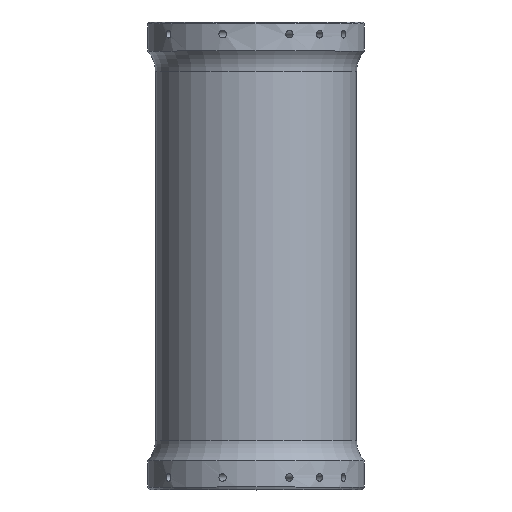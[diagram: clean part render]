
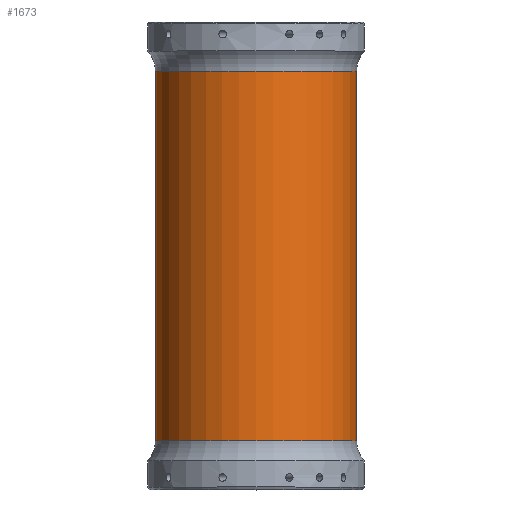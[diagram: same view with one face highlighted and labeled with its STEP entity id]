
A CAD part, top view. The second image highlights one B-rep face of the part: STEP entity #1673.
In plain terms, the highlighted cylindrical face has radius 33 mm (diameter 66 mm), a full revolution.
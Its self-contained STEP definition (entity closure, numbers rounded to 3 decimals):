
#24 = AXIS2_PLACEMENT_3D ( 'NONE', #2579, #2297, #749 ) ;
#37 = CARTESIAN_POINT ( 'NONE',  ( 0., 0., 0. ) ) ;
#72 = CYLINDRICAL_SURFACE ( 'NONE', #3656, 33. ) ;
#332 = EDGE_CURVE ( 'NONE', #2955, #2955, #1362, .T. ) ;
#334 = FACE_OUTER_BOUND ( 'NONE', #1199, .T. ) ;
#434 = DIRECTION ( 'NONE',  ( 0., 1., 0. ) ) ;
#749 = DIRECTION ( 'NONE',  ( 0., 0., 1. ) ) ;
#813 = VERTEX_POINT ( 'NONE', #2020 ) ;
#886 = EDGE_LOOP ( 'NONE', ( #2936 ) ) ;
#1199 = EDGE_LOOP ( 'NONE', ( #2322 ) ) ;
#1362 = CIRCLE ( 'NONE', #24, 33. ) ;
#1573 = DIRECTION ( 'NONE',  ( 0., 1., 0. ) ) ;
#1612 = FACE_OUTER_BOUND ( 'NONE', #886, .T. ) ;
#1668 = DIRECTION ( 'NONE',  ( 0., 0., -1. ) ) ;
#1673 = ADVANCED_FACE ( 'NONE', ( #334, #1612 ), #72, .T. ) ;
#2020 = CARTESIAN_POINT ( 'NONE',  ( 0., -137.386, -33. ) ) ;
#2039 = CIRCLE ( 'NONE', #3563, 33. ) ;
#2297 = DIRECTION ( 'NONE',  ( 0., -1., 0. ) ) ;
#2322 = ORIENTED_EDGE ( 'NONE', *, *, #2971, .T. ) ;
#2332 = CARTESIAN_POINT ( 'NONE',  ( 0., -16.114, 33. ) ) ;
#2579 = CARTESIAN_POINT ( 'NONE',  ( 0., -16.114, 0. ) ) ;
#2780 = DIRECTION ( 'NONE',  ( 0., 0., 1. ) ) ;
#2936 = ORIENTED_EDGE ( 'NONE', *, *, #332, .T. ) ;
#2955 = VERTEX_POINT ( 'NONE', #2332 ) ;
#2971 = EDGE_CURVE ( 'NONE', #813, #813, #2039, .T. ) ;
#3207 = CARTESIAN_POINT ( 'NONE',  ( 0., -137.386, 0. ) ) ;
#3563 = AXIS2_PLACEMENT_3D ( 'NONE', #3207, #434, #1668 ) ;
#3656 = AXIS2_PLACEMENT_3D ( 'NONE', #37, #1573, #2780 ) ;
